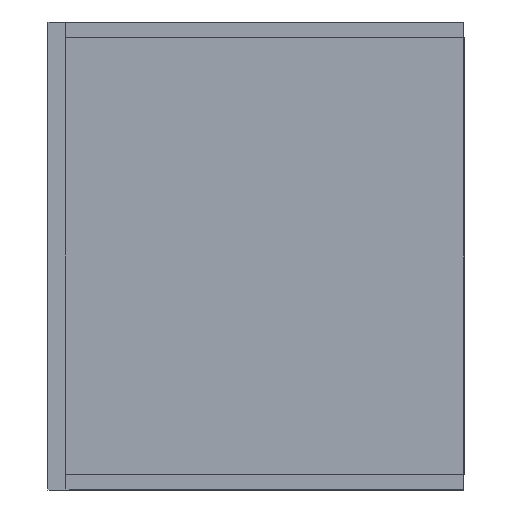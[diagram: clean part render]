
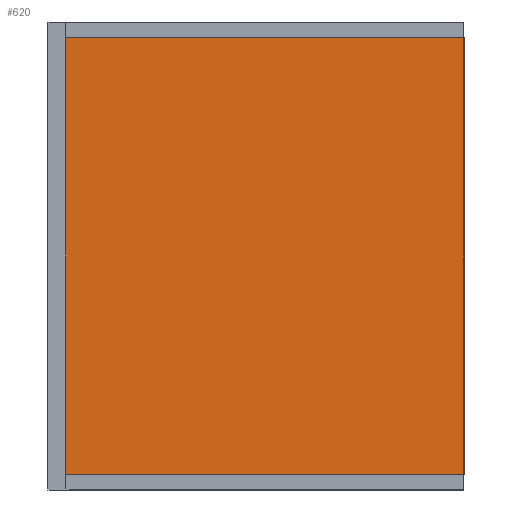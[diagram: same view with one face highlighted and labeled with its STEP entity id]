
A CAD part, left-side view. The second image highlights one B-rep face of the part: STEP entity #620.
In plain terms, the highlighted planar face has unit normal (-1, 0, 0).
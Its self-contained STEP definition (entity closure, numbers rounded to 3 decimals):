
#217=B_SPLINE_CURVE_WITH_KNOTS('',1,(#7810,#7811),.UNSPECIFIED.,.F.,.F.,
(2,2),(1166.673,1616.673),.UNSPECIFIED.);
#221=B_SPLINE_CURVE_WITH_KNOTS('',1,(#7818,#7819),.UNSPECIFIED.,.F.,.F.,
(2,2),(-1335.,-915.),.UNSPECIFIED.);
#278=B_SPLINE_CURVE_WITH_KNOTS('',1,(#8084,#8085,#8086,#8087,#8088,#8089),
 .UNSPECIFIED.,.F.,.F.,(2,1,1,1,1,2),(17.,40.,
130.,275.,368.75,423.75),
 .UNSPECIFIED.);
#289=B_SPLINE_CURVE_WITH_KNOTS('',1,(#8114,#8115,#8116,#8117,#8118,#8119),
 .UNSPECIFIED.,.F.,.F.,(2,1,1,1,1,2),(0.,55.,155.,
300.,360.,383.),.UNSPECIFIED.);
#620=ADVANCED_FACE('',(#923),#5016,.T.);
#923=FACE_OUTER_BOUND('',#1226,.T.);
#1226=EDGE_LOOP('',(#1964,#1965,#1966,#1967));
#1964=ORIENTED_EDGE('',*,*,#3293,.T.);
#1965=ORIENTED_EDGE('',*,*,#3404,.F.);
#1966=ORIENTED_EDGE('',*,*,#3289,.F.);
#1967=ORIENTED_EDGE('',*,*,#3393,.F.);
#3289=EDGE_CURVE('',#4613,#4566,#217,.T.);
#3293=EDGE_CURVE('',#4616,#4610,#221,.T.);
#3393=EDGE_CURVE('',#4616,#4613,#278,.T.);
#3404=EDGE_CURVE('',#4566,#4610,#289,.T.);
#4566=VERTEX_POINT('',#7555);
#4610=VERTEX_POINT('',#7599);
#4613=VERTEX_POINT('',#7602);
#4616=VERTEX_POINT('',#7605);
#5016=PLANE('',#5676);
#5676=AXIS2_PLACEMENT_3D('',#7508,#6262,$);
#6262=DIRECTION('',(-1.,0.,0.));
#7508=CARTESIAN_POINT('',(-38932.773,-16654.766,465.9));
#7555=CARTESIAN_POINT('',(-38932.773,-17058.766,31.5));
#7599=CARTESIAN_POINT('',(-38932.773,-16675.766,31.5));
#7602=CARTESIAN_POINT('',(-38932.773,-17058.766,451.5));
#7605=CARTESIAN_POINT('',(-38932.773,-16675.766,451.5));
#7810=CARTESIAN_POINT('',(-38932.773,-17058.766,451.5));
#7811=CARTESIAN_POINT('',(-38932.773,-17058.766,31.5));
#7818=CARTESIAN_POINT('',(-38932.773,-16675.766,451.5));
#7819=CARTESIAN_POINT('',(-38932.773,-16675.766,31.5));
#8084=CARTESIAN_POINT('',(-38932.773,-16675.766,451.5));
#8085=CARTESIAN_POINT('',(-38932.773,-16698.766,451.5));
#8086=CARTESIAN_POINT('',(-38932.773,-16758.766,451.5));
#8087=CARTESIAN_POINT('',(-38932.773,-16903.766,451.5));
#8088=CARTESIAN_POINT('',(-38932.773,-17003.766,451.5));
#8089=CARTESIAN_POINT('',(-38932.773,-17058.766,451.5));
#8114=CARTESIAN_POINT('',(-38932.773,-17058.766,31.5));
#8115=CARTESIAN_POINT('',(-38932.773,-17003.766,31.5));
#8116=CARTESIAN_POINT('',(-38932.773,-16903.766,31.5));
#8117=CARTESIAN_POINT('',(-38932.773,-16758.766,31.5));
#8118=CARTESIAN_POINT('',(-38932.773,-16698.766,31.5));
#8119=CARTESIAN_POINT('',(-38932.773,-16675.766,31.5));
